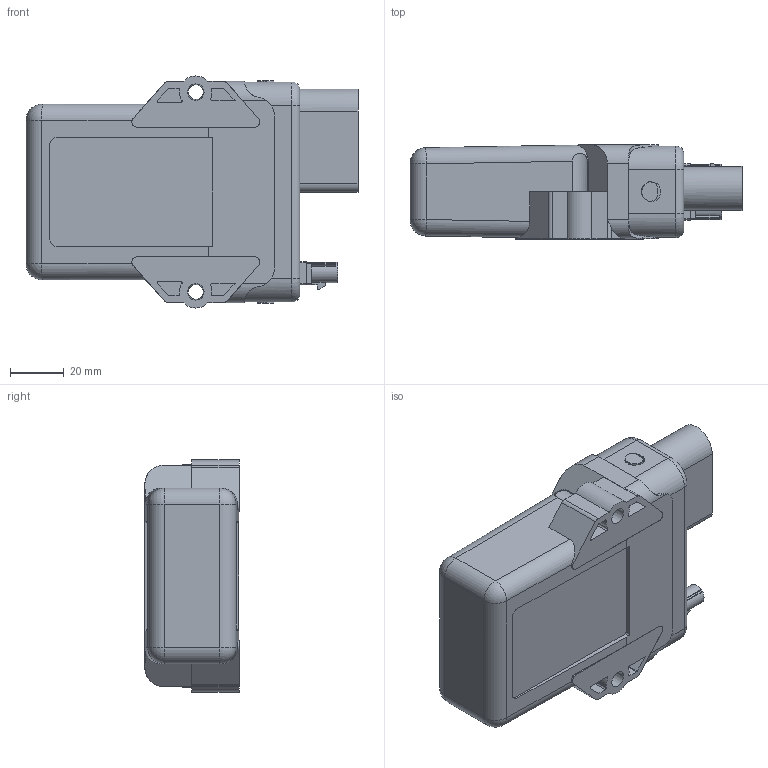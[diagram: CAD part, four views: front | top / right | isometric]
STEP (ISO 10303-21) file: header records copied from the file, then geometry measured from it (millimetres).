
FILE_DESCRIPTION(/* description */ ('STEP AP203'),/* implementation_level */ '2;1');
FILE_NAME(/* name */ 'CR3158',/* time_stamp */ '2023-11-24T09:14:48+01:00',/* author */ ('License CC BY-ND 4.0'),/* organization */ ('CADENAS'),/* preprocessor_version */ 'ST-DEVELOPER v19.3',/* originating_system */ 'PARTsolutions',/* authorisation */ ' ');
FILE_SCHEMA (('CONFIG_CONTROL_DESIGN'));
Length unit declared in the file: millimetre
Products named in the file (1): CR3158
Bounding box: 123 x 34.9 x 86 mm (x, y, z)
Volume: 239560.5 mm3; surface area: 33696 mm2
Topology: 1 solids, 1 shells, 426 faces, 1127 edges, 738 vertices
Faces by surface type: plane 279, cylinder 131, cone 8, sphere 4, torus 4
Full cylindrical faces by diameter (mm): 0.51 x2, 2.37 x2, 3.68 x2, 6.3 x2, 7.5 x2
Entity records: 16094 total; most frequent: CARTESIAN_POINT 2384, DIRECTION 2217, ORIENTED_EDGE 2208, EDGE_CURVE 1104, LINE 799, VECTOR 799, VERTEX_POINT 735, AXIS2_PLACEMENT_3D 709
